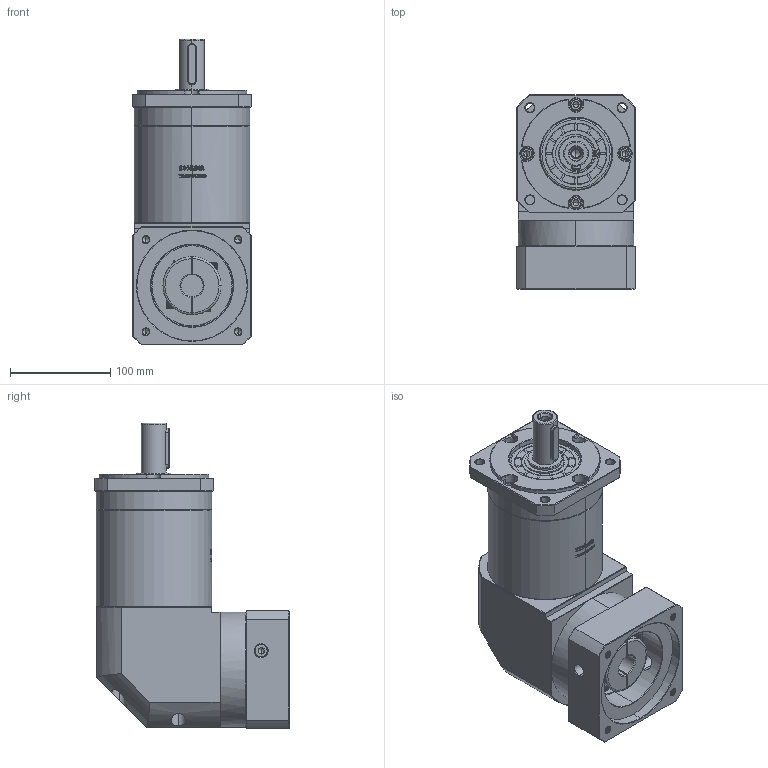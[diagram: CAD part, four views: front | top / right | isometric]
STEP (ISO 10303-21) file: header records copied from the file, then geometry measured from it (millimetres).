
FILE_DESCRIPTION (( 'STEP AP214' ), '1' );
FILE_NAME ('ZFR120A-D25-L3-22-110-130-M8.step', '2023-03-08T08:22:09', ( '' ), ( '' ), 'SwSTEP 2.0', 'SolidWorks 2016', '' );
FILE_SCHEMA (( 'AUTOMOTIVE_DESIGN' ));
Length unit declared in the file: millimetre
Products named in the file (1): ZFR120A-D25-L3-22-110-130-M8
Bounding box: 118 x 193.9 x 305 mm (x, y, z)
Volume: 3463477.7 mm3; surface area: 264897.9 mm2
Topology: 6 solids, 6 shells, 2871 faces, 7662 edges, 4936 vertices
Faces by surface type: plane 1484, bspline 607, cylinder 434, cone 338, torus 8
Entity records: 157758 total; most frequent: CARTESIAN_POINT 60477, ORIENTED_EDGE 15264, DIRECTION 11095, EDGE_CURVE 7632, VERTEX_POINT 4936, LINE 4749, VECTOR 4749, AXIS2_PLACEMENT_3D 3173
